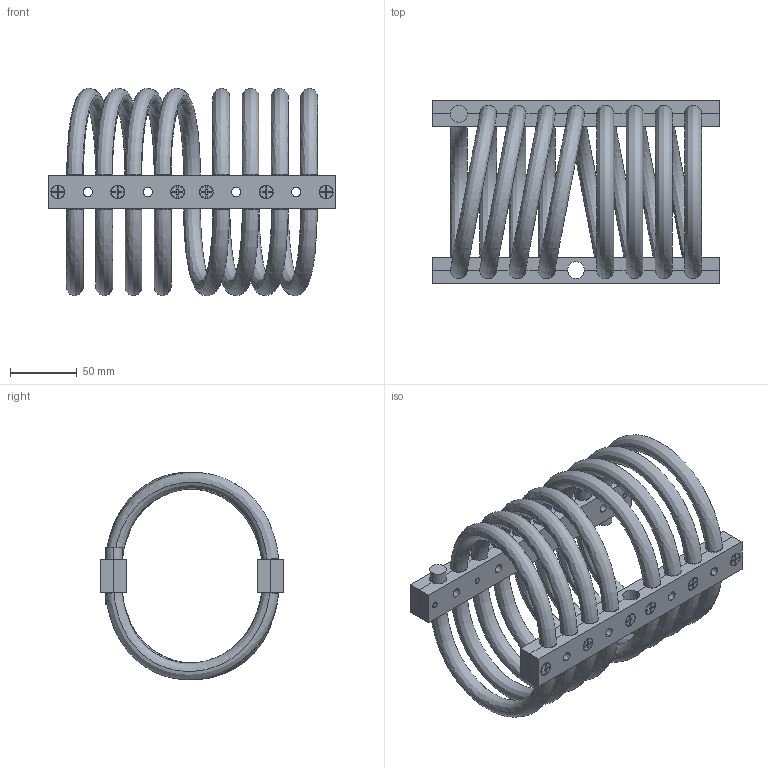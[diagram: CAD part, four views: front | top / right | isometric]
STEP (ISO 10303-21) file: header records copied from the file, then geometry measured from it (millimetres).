
FILE_DESCRIPTION (( 'STEP AP214' ), '1' );
FILE_NAME ('WR16-850-8DM.STEP', '2018-12-07T10:08:45', ( 'user' ), ( 'Microsoft' ), 'SwSTEP 2.0', 'SolidWorks 2016', '' );
FILE_SCHEMA (( 'AUTOMOTIVE_DESIGN' ));
Length unit declared in the file: millimetre
Products named in the file (1): WR16-850-8DM
Bounding box: 215.9 x 137 x 156.04 mm (x, y, z)
Volume: 609044.7 mm3; surface area: 224625.1 mm2
Topology: 34 solids, 34 shells, 664 faces, 1618 edges, 1050 vertices
Faces by surface type: plane 300, cylinder 258, cone 72, bspline 34
Entity records: 35373 total; most frequent: CARTESIAN_POINT 18513, DIRECTION 3244, ORIENTED_EDGE 3236, EDGE_CURVE 1618, AXIS2_PLACEMENT_3D 1159, VERTEX_POINT 1050, LINE 926, VECTOR 926
